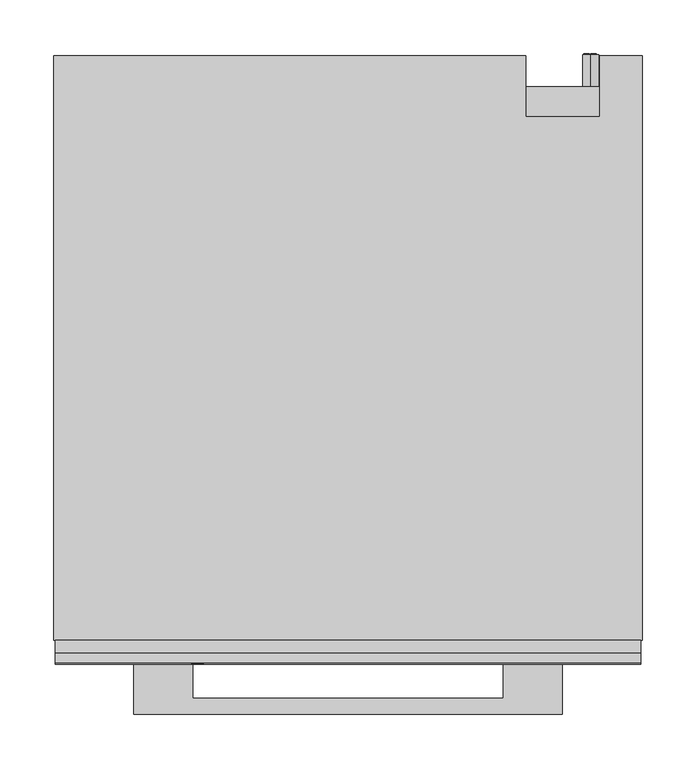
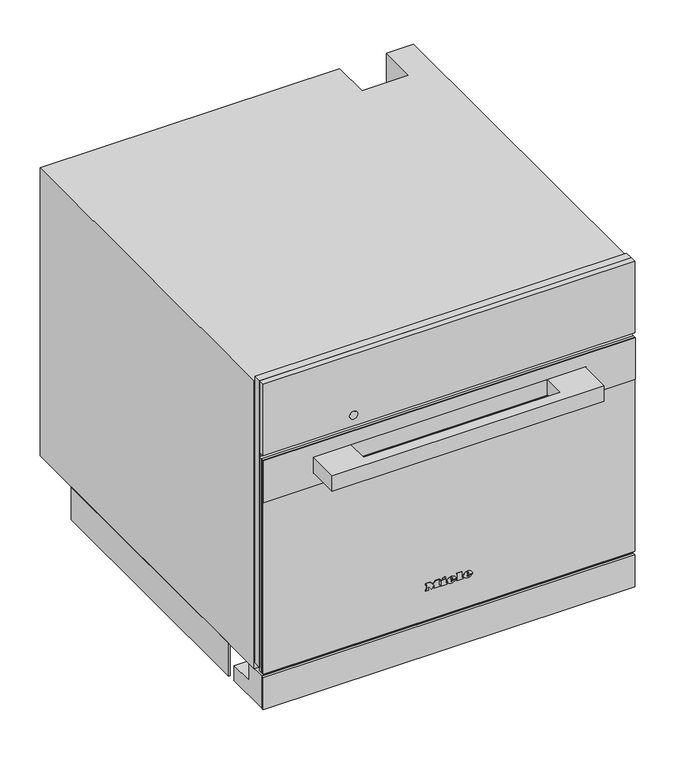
"""IFC4 building model written with IfcOpenShell, lengths in millimetres: proxy geometry, 12082240_CH_DGC7640-55_EDST-CLS : 23764041_CH_12082240_DGC7640-55_EDST-CLS."""

from ifc_helpers import new_model, si_unit, point, frame, frame_2d, origin, origin_with_axes, place, context, project, spatial, polyline, circle_curve, ellipse_curve, trimmed, segment, composite_curve, outline, extrude, faceted_brep, source, transform, mapped, element, save
from ifc_brep_helpers import plane_surface, cylinder_surface, revolved_surface, extruded_surface, advanced_brep


def specialty_equipment_fdcbd428(model_context):
    return source(origin(), model_context, "Body", "SolidModel", [
        extrude(outline(polyline([(388.0, 273.5), (388.0, -273.5), (323.0, -273.5), (323.0, 273.5), (388.0, 273.5)]), holes=[polyline([(368.0, -200.5), (368.0, 200.5), (343.0, 200.5), (343.0, -200.5), (368.0, -200.5)])]), frame((0.0, -22.3, 0.0), z_axis=(0.0, 1.0, 0.0), x_axis=(0.0, 0.0, 1.0)), (0.0, 0.0, 1.0), 1.3),
        extrude(outline(polyline([(-200.0, -69.3), (-200.0, -21.0), (-145.0, -21.0), (-145.0, -54.3), (145.0, -54.3), (145.0, -21.0), (200.0, -21.0), (200.0, -69.3), (-200.0, -69.3)])), frame((0.0, 0.0, 343.5), z_axis=(0.0, 0.0, 1.0), x_axis=(1.0, 0.0, 0.0)), (0.0, 0.0, 1.0), 24.0),
        extrude(outline(polyline([(-273.5, -17.0), (273.5, -17.0), (273.5, -21.0), (-273.5, -21.0), (-273.5, -17.0)])), frame((0.0, 0.0, 55.0), z_axis=(0.0, 0.0, 1.0), x_axis=(1.0, 0.0, 0.0)), (0.0, 0.0, 1.0), 333.0),
        extrude(outline(polyline([(273.5, -17.0), (-273.5, -17.0), (-273.5, -12.0), (273.5, -12.0), (273.5, -17.0)])), frame((0.0, 0.0, 55.0), z_axis=(0.0, 0.0, 1.0), x_axis=(1.0, 0.0, 0.0)), (0.0, 0.0, 1.0), 333.0),
        extrude(outline(polyline([(273.5, -21.0), (-273.5, -21.0), (-273.5, -12.0), (273.5, -12.0), (273.5, -21.0)])), frame((0.0, 0.0, 395.0), z_axis=(0.0, 0.0, 1.0), x_axis=(1.0, 0.0, 0.0)), (0.0, 0.0, 1.0), 111.0),
        extrude(outline(composite_curve([segment(trimmed(circle_curve(frame_2d((412.0, -140.5745637)), 6.0), [point((412.0, -146.5745637))], [point((412.0, -134.5745637))], False, "CARTESIAN"), True, "CONTINUOUS"), segment(trimmed(circle_curve(frame_2d((412.0, -140.5745637)), 6.0), [point((412.0, -134.5745637))], [point((412.0, -146.5745637))], False, "CARTESIAN"), True, "CONTINUOUS")], self_intersect=False)), frame((0.0, -21.5, 0.0), z_axis=(0.0, 1.0, 0.0), x_axis=(0.0, 0.0, 1.0)), (0.0, 0.0, 1.0), 1.0),
        extrude(outline(polyline([(49.5, 273.0), (0.5, 273.0), (0.5, 275.0), (51.5, 275.0), (51.5, 203.0), (49.5, 203.0), (49.5, 273.0)])), frame((0.0, 65.0, 0.0), z_axis=(0.0, 1.0, 0.0), x_axis=(0.0, 0.0, 1.0)), (0.0, 0.0, 1.0), 401.0),
        extrude(outline(polyline([(51.5, -275.0), (0.5, -275.0), (0.5, -273.0), (49.5, -273.0), (49.5, -203.0), (51.5, -203.0), (51.5, -275.0)])), frame((0.0, 65.0, 0.0), z_axis=(0.0, 1.0, 0.0), x_axis=(0.0, 0.0, 1.0)), (0.0, 0.0, 1.0), 401.0),
        extrude(outline(polyline([(-16.0, 0.0), (-16.0, 49.5), (15.0, 49.5), (15.0, 23.5), (53.0, 23.5), (53.0, 0.0), (-16.0, 0.0)])), frame((-273.5, 0.0, 0.0), z_axis=(1.0, 0.0, 0.0), x_axis=(0.0, 1.0, 0.0)), (0.0, 0.0, 1.0), 547.0),
        extrude(outline(polyline([(-273.5, -17.0), (273.5, -17.0), (273.5, -21.0), (-273.5, -21.0), (-273.5, -17.0)])), origin_with_axes(), (0.0, 0.0, 1.0), 49.5),
        extrude(outline(polyline([(506.0, 273.5), (506.0, -273.5), (60.0, -273.5), (60.0, 273.5), (506.0, 273.5)]), holes=[polyline([(395.0, -272.5), (395.0, 272.5), (78.0, 272.5), (78.0, -272.5), (395.0, -272.5)])]), frame((0.0, -12.0, 0.0), z_axis=(0.0, 1.0, 0.0), x_axis=(0.0, 0.0, 1.0)), (0.0, 0.0, 1.0), 12.0),
        extrude(outline(polyline([(304.0, 232.0), (304.0, 227.0), (303.0, 227.0), (303.0, 231.0), (299.5, 231.0), (299.5, 228.0), (298.5, 228.0), (298.5, 231.0), (295.0, 231.0), (295.0, 227.0), (294.0, 227.0), (294.0, 232.0), (304.0, 232.0)])), frame((0.0, 547.0, 0.0), z_axis=(0.0, 1.0, 0.0), x_axis=(0.0, 0.0, 1.0)), (0.0, 0.0, 1.0), 1.0),
        extrude(outline(polyline([(294.0, 225.5), (304.0, 225.5), (304.0, 224.5), (295.0, 224.5), (295.0, 220.5), (294.0, 220.5), (294.0, 225.5)])), frame((0.0, 547.0, 0.0), z_axis=(0.0, 1.0, 0.0), x_axis=(0.0, 0.0, 1.0)), (0.0, 0.0, 1.0), 1.0),
        extrude(outline(composite_curve([segment(trimmed(circle_curve(frame_2d((299.0, 227.0)), 7.5), [point((291.5, 227.0))], [point((306.5, 227.0))], False, "CARTESIAN"), True, "CONTINUOUS"), segment(trimmed(circle_curve(frame_2d((299.0, 227.0)), 7.5), [point((306.5, 227.0))], [point((291.5, 227.0))], False, "CARTESIAN"), True, "CONTINUOUS")], self_intersect=False)), frame((0.0, 517.0, 0.0), z_axis=(0.0, 1.0, 0.0), x_axis=(0.0, 0.0, 1.0)), (0.0, 0.0, 1.0), 30.0),
        faceted_brep([(-275.0, 546.0, 51.5), (-275.0, 546.0, 499.5), (166.0, 546.0, 499.5), (166.0, 546.0, 51.5), (235.0, 546.0, 499.5), (275.0, 546.0, 499.5), (275.0, 546.0, 389.5), (235.0, 546.0, 389.5), (275.0, 0.0, 499.5), (-275.0, 0.0, 499.5), (-275.0, 0.0, 51.5), (275.0, 0.0, 51.5), (-272.5, 0.0, 395.0), (272.5, 0.0, 395.0), (272.5, 0.0, 78.0), (-272.5, 0.0, 78.0), (235.0, 489.0, 499.5), (166.0, 489.0, 499.5), (166.0, 517.0, 51.5), (275.0, 517.0, 51.5), (275.0, 517.0, 389.5), (272.5, 18.0, 395.0), (-272.5, 18.0, 395.0), (-272.5, 18.0, 78.0), (272.5, 18.0, 78.0), (231.0, 18.0, 358.0), (231.0, 18.0, 116.0), (-231.0, 18.0, 116.0), (-231.0, 18.0, 358.0), (231.0, 411.0, 358.0), (-231.0, 411.0, 358.0), (-231.0, 411.0, 116.0), (231.0, 411.0, 116.0), (235.0, 489.0, 388.5), (166.0, 489.0, 388.5), (166.0, 517.0, 388.5), (235.0, 517.0, 388.5), (235.0, 517.0, 389.5)], [[[0, 1, 2, 3]], [[4, 5, 6, 7]], [[8, 9, 10, 11], [12, 13, 14, 15]], [[9, 8, 5, 4, 16, 17, 2, 1]], [[1, 0, 10, 9]], [[11, 10, 0, 3, 18, 19]], [[8, 11, 19, 20, 6, 5]], [[21, 22, 23, 24], [25, 26, 27, 28]], [[22, 21, 13, 12]], [[23, 22, 12, 15]], [[24, 23, 15, 14]], [[21, 24, 14, 13]], [[29, 30, 31, 32]], [[29, 32, 26, 25]], [[32, 31, 27, 26]], [[31, 30, 28, 27]], [[30, 29, 25, 28]], [[16, 33, 34, 17]], [[17, 34, 35, 18, 3, 2]], [[34, 33, 36, 35]], [[33, 16, 4, 7, 37, 36]], [[37, 20, 19, 18, 35, 36]], [[20, 37, 7, 6]]]),
        advanced_brep(
        [(26.2998, -22.0, 104.2018), (26.2998, -22.0, 105.3532), (33.9264, -22.0, 105.3532), (20.6568, -22.0, 105.3532), (23.7918, -22.0, 101.5), (33.7326, -22.0, 104.2018), (30.2898, -22.0, 104.2018), (27.5766, -22.0, 102.925), (26.2998, -22.0, 106.8124), (26.2998, -22.0, 108.055), (28.2492, -22.0, 108.055), (28.2492, -22.0, 106.8124), (26.2998, -21.0, 104.2018), (27.5766, -21.0, 102.925), (30.2898, -21.0, 104.2018), (33.7326, -21.0, 104.2018), (23.7918, -21.0, 101.5), (20.6568, -21.0, 105.3532), (33.9264, -21.0, 105.3532), (26.2998, -21.0, 105.3532), (26.2998, -21.0, 106.8124), (28.2492, -21.0, 106.8124), (28.2492, -21.0, 108.055), (26.2998, -21.0, 108.055)],
        [
            (0, 1),
            (1, 2),
            (2, 3, ellipse_curve(frame((27.2916, -22.0, 105.3532), z_axis=(0.0, -1.0, 0.0), x_axis=(-1.0, 0.0, 0.0)), 6.6348, 5.4834)),
            (3, 4, circle_curve(frame((25.0686622, -22.0, 105.7408), z_axis=(0.0, -1.0, 0.0), x_axis=(0.0, 0.0, -1.0)), 4.4288556)),
            (4, 5, circle_curve(frame((27.1587808, -22.0, 108.7504), z_axis=(0.0, -1.0, 0.0), x_axis=(0.0, 0.0, -1.0)), 7.9940516)),
            (5, 6),
            (6, 7, circle_curve(frame((28.1338588, -22.0, 105.262), z_axis=(0.0, 1.0, 0.0), x_axis=(0.0, 0.0, -1.0)), 2.4025208)),
            (7, 0, circle_curve(frame((27.5766, -22.0, 104.2018), z_axis=(0.0, 1.0, 0.0), x_axis=(0.0, 0.0, -1.0)), 1.2768)),
            (8, 9),
            (9, 10, circle_curve(frame((27.2745, -22.0, 108.055), z_axis=(0.0, 1.0, 0.0), x_axis=(0.0, 0.0, -1.0)), 0.9747)),
            (10, 11),
            (11, 8),
            (12, 13, circle_curve(frame((27.5766, -21.0, 104.2018), z_axis=(0.0, -1.0, 0.0), x_axis=(0.0, 0.0, -1.0)), 1.2768)),
            (13, 14, circle_curve(frame((28.1338588, -21.0, 105.262), z_axis=(0.0, -1.0, 0.0), x_axis=(0.0, 0.0, -1.0)), 2.4025208)),
            (14, 15),
            (15, 16, circle_curve(frame((27.1587808, -21.0, 108.7504), z_axis=(0.0, 1.0, 0.0), x_axis=(0.0, 0.0, -1.0)), 7.9940516)),
            (16, 17, circle_curve(frame((25.0686622, -21.0, 105.7408), z_axis=(0.0, 1.0, 0.0), x_axis=(0.0, 0.0, -1.0)), 4.4288556)),
            (17, 18, ellipse_curve(frame((27.2916, -21.0, 105.3532), z_axis=(0.0, 1.0, 0.0), x_axis=(-1.0, 0.0, 0.0)), 6.6348, 5.4834)),
            (18, 19),
            (19, 12),
            (20, 21),
            (21, 22),
            (22, 23, circle_curve(frame((27.2745, -21.0, 108.055), z_axis=(0.0, -1.0, 0.0), x_axis=(0.0, 0.0, -1.0)), 0.9747)),
            (23, 20),
            (0, 12),
            (19, 1),
            (18, 2),
            (5, 15),
            (14, 6),
            (17, 3),
            (13, 7),
            (16, 4),
            (8, 20),
            (23, 9),
            (22, 10),
            (21, 11),
        ],
        [
            plane_surface(frame((26.2998, -22.0, 105.3532), z_axis=(0.0, -1.0, 0.0), x_axis=(0.0, 0.0, 1.0))),
            plane_surface(frame((26.2998, -21.0, 105.3532), z_axis=(0.0, 1.0, 0.0), x_axis=(0.0, 0.0, -1.0))),
            plane_surface(frame((26.2998, -22.0, 104.2018), z_axis=(1.0, 0.0, 0.0), x_axis=(0.0, 1.0, 0.0))),
            plane_surface(frame((26.2998, -22.0, 105.3532), z_axis=(0.0, 0.0, -1.0), x_axis=(0.0, 1.0, 0.0))),
            plane_surface(frame((33.7326, -22.0, 104.2018), z_axis=(0.0, 0.0, 1.0), x_axis=(0.0, 1.0, 0.0))),
            extruded_surface(trimmed(ellipse_curve(frame((27.2916, -20.0, 105.3532), z_axis=(0.0, -1.0, 0.0), x_axis=(-1.0, 0.0, 0.0)), 6.6348, 5.4834), [point((33.9264, -20.0, 105.3532))], [point((20.6568, -20.0, 105.3532))], True, "CARTESIAN"), (0.0, -1.0, 0.0), 1.0),
            revolved_surface(polyline([(28.1338588, -21.0, 102.8594792), (28.1338588, -22.0, 102.8594792)]), (28.1338588, -21.0, 105.262), (0.0, 1.0, 0.0)),
            revolved_surface(polyline([(27.5766, -21.0, 102.92500000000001), (27.5766, -22.0, 102.92500000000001)]), (27.5766, -21.0, 104.2018), (0.0, 1.0, 0.0)),
            cylinder_surface(frame((25.0686622, -21.0, 105.7408), z_axis=(0.0, -1.0, 0.0), x_axis=(0.0, 0.0, -1.0)), 4.4288556),
            cylinder_surface(frame((27.1587808, -21.0, 108.7504), z_axis=(0.0, -1.0, 0.0), x_axis=(0.0, 0.0, -1.0)), 7.9940516),
            plane_surface(frame((26.2998, -22.0, 106.8124), z_axis=(1.0, 0.0, 0.0), x_axis=(0.0, 1.0, 0.0))),
            revolved_surface(polyline([(27.2745, -21.0, 107.08030000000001), (27.2745, -22.0, 107.08030000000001)]), (27.2745, -21.0, 108.055), (0.0, 1.0, 0.0)),
            plane_surface(frame((28.2492, -22.0, 108.055), z_axis=(-1.0, 0.0, 0.0), x_axis=(0.0, 1.0, 0.0))),
            plane_surface(frame((28.2492, -22.0, 106.8124), z_axis=(0.0, 0.0, 1.0), x_axis=(0.0, 1.0, 0.0))),
        ],
        [
            (0, [[1, 2, 3, 4, 5, 6, 7, 8], [9, 10, 11, 12]]),
            (1, [[13, 14, 15, 16, 17, 18, 19, 20], [21, 22, 23, 24]]),
            (2, [[-1, 25, -20, 26]]),
            (3, [[-2, -26, -19, 27]]),
            (4, [[-6, 28, -15, 29]]),
            (5, [[-3, -27, -18, 30]]),
            (6, [[-7, -29, -14, 31]]),
            (7, [[-8, -31, -13, -25]]),
            (8, [[-4, -30, -17, 32]]),
            (9, [[-5, -32, -16, -28]]),
            (10, [[-9, 33, -24, 34]]),
            (11, [[-10, -34, -23, 35]]),
            (12, [[-11, -35, -22, 36]]),
            (13, [[-12, -36, -21, -33]]),
        ],
    ),
        advanced_brep(
        [(2.508, -22.0, 104.2018), (2.508, -22.0, 105.3532), (10.1346, -22.0, 105.3532), (-3.135, -22.0, 105.3532), (0.0, -22.0, 101.5), (9.9408, -22.0, 104.2018), (6.498, -22.0, 104.2018), (3.7848, -22.0, 102.925), (2.508, -22.0, 106.8124), (2.508, -22.0, 108.055), (4.4574, -22.0, 108.055), (4.4574, -22.0, 106.8124), (2.508, -21.0, 104.2018), (3.7848, -21.0, 102.925), (6.498, -21.0, 104.2018), (9.9408, -21.0, 104.2018), (0.0, -21.0, 101.5), (-3.135, -21.0, 105.3532), (10.1346, -21.0, 105.3532), (2.508, -21.0, 105.3532), (2.508, -21.0, 106.8124), (4.4574, -21.0, 106.8124), (4.4574, -21.0, 108.055), (2.508, -21.0, 108.055)],
        [
            (0, 1),
            (1, 2),
            (2, 3, ellipse_curve(frame((3.4998, -22.0, 105.3532), z_axis=(0.0, -1.0, 0.0), x_axis=(-1.0, 0.0, 0.0)), 6.6348, 5.4834)),
            (3, 4, circle_curve(frame((1.2768622, -22.0, 105.7408), z_axis=(0.0, -1.0, 0.0), x_axis=(0.0, 0.0, -1.0)), 4.4288556)),
            (4, 5, circle_curve(frame((3.3669808, -22.0, 108.7504), z_axis=(0.0, -1.0, 0.0), x_axis=(0.0, 0.0, -1.0)), 7.9940516)),
            (5, 6),
            (6, 7, circle_curve(frame((4.3420588, -22.0, 105.262), z_axis=(0.0, 1.0, 0.0), x_axis=(0.0, 0.0, -1.0)), 2.4025208)),
            (7, 0, circle_curve(frame((3.7848, -22.0, 104.2018), z_axis=(0.0, 1.0, 0.0), x_axis=(0.0, 0.0, -1.0)), 1.2768)),
            (8, 9),
            (9, 10, circle_curve(frame((3.4827, -22.0, 108.055), z_axis=(0.0, 1.0, 0.0), x_axis=(0.0, 0.0, -1.0)), 0.9747)),
            (10, 11),
            (11, 8),
            (12, 13, circle_curve(frame((3.7848, -21.0, 104.2018), z_axis=(0.0, -1.0, 0.0), x_axis=(0.0, 0.0, -1.0)), 1.2768)),
            (13, 14, circle_curve(frame((4.3420588, -21.0, 105.262), z_axis=(0.0, -1.0, 0.0), x_axis=(0.0, 0.0, -1.0)), 2.4025208)),
            (14, 15),
            (15, 16, circle_curve(frame((3.3669808, -21.0, 108.7504), z_axis=(0.0, 1.0, 0.0), x_axis=(0.0, 0.0, -1.0)), 7.9940516)),
            (16, 17, circle_curve(frame((1.2768622, -21.0, 105.7408), z_axis=(0.0, 1.0, 0.0), x_axis=(0.0, 0.0, -1.0)), 4.4288556)),
            (17, 18, ellipse_curve(frame((3.4998, -21.0, 105.3532), z_axis=(0.0, 1.0, 0.0), x_axis=(-1.0, 0.0, 0.0)), 6.6348, 5.4834)),
            (18, 19),
            (19, 12),
            (20, 21),
            (21, 22),
            (22, 23, circle_curve(frame((3.4827, -21.0, 108.055), z_axis=(0.0, -1.0, 0.0), x_axis=(0.0, 0.0, -1.0)), 0.9747)),
            (23, 20),
            (0, 12),
            (19, 1),
            (18, 2),
            (5, 15),
            (14, 6),
            (17, 3),
            (13, 7),
            (16, 4),
            (8, 20),
            (23, 9),
            (22, 10),
            (21, 11),
        ],
        [
            plane_surface(frame((2.508, -22.0, 105.3532), z_axis=(0.0, -1.0, 0.0), x_axis=(0.0, 0.0, 1.0))),
            plane_surface(frame((2.508, -21.0, 105.3532), z_axis=(0.0, 1.0, 0.0), x_axis=(0.0, 0.0, -1.0))),
            plane_surface(frame((2.508, -22.0, 104.2018), z_axis=(1.0, 0.0, 0.0), x_axis=(0.0, 1.0, 0.0))),
            plane_surface(frame((2.508, -22.0, 105.3532), z_axis=(0.0, 0.0, -1.0), x_axis=(0.0, 1.0, 0.0))),
            plane_surface(frame((9.9408, -22.0, 104.2018), z_axis=(0.0, 0.0, 1.0), x_axis=(0.0, 1.0, 0.0))),
            extruded_surface(trimmed(ellipse_curve(frame((3.4998, -20.0, 105.3532), z_axis=(0.0, -1.0, 0.0), x_axis=(-1.0, 0.0, 0.0)), 6.6348, 5.4834), [point((10.1346, -20.0, 105.3532))], [point((-3.135, -20.0, 105.3532))], True, "CARTESIAN"), (0.0, -1.0, 0.0), 1.0),
            revolved_surface(polyline([(4.3420588, -21.0, 102.8594792), (4.3420588, -22.0, 102.8594792)]), (4.3420588, -21.0, 105.262), (0.0, 1.0, 0.0)),
            revolved_surface(polyline([(3.7848, -21.0, 102.92500000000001), (3.7848, -22.0, 102.92500000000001)]), (3.7848, -21.0, 104.2018), (0.0, 1.0, 0.0)),
            cylinder_surface(frame((1.2768622, -21.0, 105.7408), z_axis=(0.0, -1.0, 0.0), x_axis=(0.0, 0.0, -1.0)), 4.4288556),
            cylinder_surface(frame((3.3669808, -21.0, 108.7504), z_axis=(0.0, -1.0, 0.0), x_axis=(0.0, 0.0, -1.0)), 7.9940516),
            plane_surface(frame((2.508, -22.0, 106.8124), z_axis=(1.0, 0.0, 0.0), x_axis=(0.0, 1.0, 0.0))),
            revolved_surface(polyline([(3.4827, -21.0, 107.08030000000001), (3.4827, -22.0, 107.08030000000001)]), (3.4827, -21.0, 108.055), (0.0, 1.0, 0.0)),
            plane_surface(frame((4.4574, -22.0, 108.055), z_axis=(-1.0, 0.0, 0.0), x_axis=(0.0, 1.0, 0.0))),
            plane_surface(frame((4.4574, -22.0, 106.8124), z_axis=(0.0, 0.0, 1.0), x_axis=(0.0, 1.0, 0.0))),
        ],
        [
            (0, [[1, 2, 3, 4, 5, 6, 7, 8], [9, 10, 11, 12]]),
            (1, [[13, 14, 15, 16, 17, 18, 19, 20], [21, 22, 23, 24]]),
            (2, [[-1, 25, -20, 26]]),
            (3, [[-2, -26, -19, 27]]),
            (4, [[-6, 28, -15, 29]]),
            (5, [[-3, -27, -18, 30]]),
            (6, [[-7, -29, -14, 31]]),
            (7, [[-8, -31, -13, -25]]),
            (8, [[-4, -30, -17, 32]]),
            (9, [[-5, -32, -16, -28]]),
            (10, [[-9, 33, -24, 34]]),
            (11, [[-10, -34, -23, 35]]),
            (12, [[-11, -35, -22, 36]]),
            (13, [[-12, -36, -21, -33]]),
        ],
    ),
        extrude(outline(polyline([(112.2274, -9.9522), (110.3806, -9.0858), (112.1818, -5.2212), (114.0286, -6.0762), (112.2274, -9.9522)])), frame((0.0, -22.0, 0.0), z_axis=(0.0, 1.0, 0.0), x_axis=(0.0, 0.0, 1.0)), (0.0, 0.0, 1.0), 1.0),
        extrude(outline(polyline([(110.1298, -12.768), (108.0892, -12.768), (108.0892, -11.4114), (103.4152, -11.4114), (103.4152, -12.768), (101.5, -12.768), (101.5, -3.7734), (103.4152, -3.7734), (103.4152, -5.0958), (110.1298, -5.0958), (110.1298, -12.768)])), frame((0.0, -22.0, 0.0), z_axis=(0.0, 1.0, 0.0), x_axis=(0.0, 0.0, 1.0)), (0.0, 0.0, 1.0), 1.0),
        extrude(outline(polyline([(111.0418, 10.773), (111.0418, 12.141), (103.4152, 12.141), (103.4152, 10.773), (101.5, 10.773), (101.5, 20.0184), (103.4152, 20.0184), (103.4152, 18.6162), (112.9, 18.6162), (112.9, 10.773), (111.0418, 10.773)])), frame((0.0, -22.0, 0.0), z_axis=(0.0, 1.0, 0.0), x_axis=(0.0, 0.0, 1.0)), (0.0, 0.0, 1.0), 1.0),
        extrude(outline(polyline([(111.0418, -35.4882), (111.0418, -34.1088), (103.4152, -34.1088), (103.4152, -35.4882), (101.5, -35.4882), (101.5, -30.4722), (103.4152, -30.4722), (103.4152, -31.8402), (108.2429247, -31.8402), (101.5, -26.7444), (108.4402223, -21.6258), (103.4152, -21.6258), (103.4152, -23.028), (101.5, -23.028), (101.5, -13.9308), (103.4152, -13.9308), (103.4152, -15.3786), (111.0418, -15.3786), (111.0418, -13.9308), (112.9, -13.9308), (112.9, -20.8734), (108.625, -24.2022), (112.9, -27.5424), (112.9, -35.4882), (111.0418, -35.4882)])), frame((0.0, -22.0, 0.0), z_axis=(0.0, 1.0, 0.0), x_axis=(0.0, 0.0, 1.0)), (0.0, 0.0, 1.0), 1.0),
    ])


if __name__ == "__main__":
    model = new_model("IFC4")
    model_context = context("Model", 3, world=origin())
    ifc_project = project(units=[si_unit("LENGTHUNIT", "METRE", prefix="MILLI")], contexts=[model_context])
    site = spatial("IfcSite", under=ifc_project)
    building = spatial("IfcBuilding", under=site)
    placement = place(None, origin())
    specialty_equipment_shape = specialty_equipment_fdcbd428(model_context)
    element("IfcBuildingElementProxy", 1, Name="12082240_CH_DGC7640-55_EDST-CLS : 23764041_CH_12082240_DGC7640-55_EDST-CLS", ObjectType="12082240_CH_DGC7640-55_EDST-CLS : 23764041_CH_12082240_DGC7640-55_EDST-CLS", at=placement, inside=building, context=model_context, shape_type="MappedRepresentation", body=[
        mapped(specialty_equipment_shape, transform((0.0, 0.0, 0.0), x_axis=(1.0, 0.0, 0.0), y_axis=(0.0, 1.0, 0.0), z_axis=(0.0, 0.0, 1.0))),
    ])
    save(model, "model.ifc")
